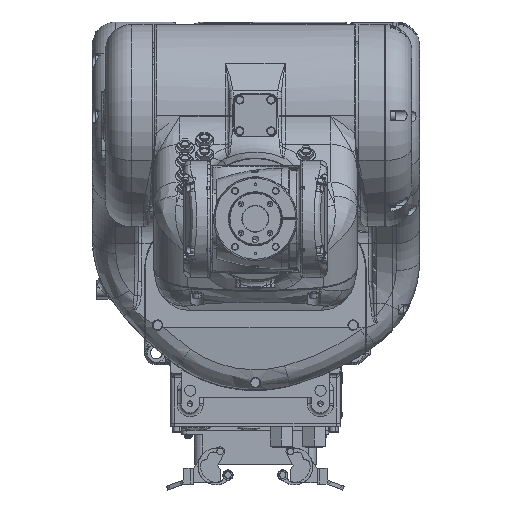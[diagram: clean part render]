
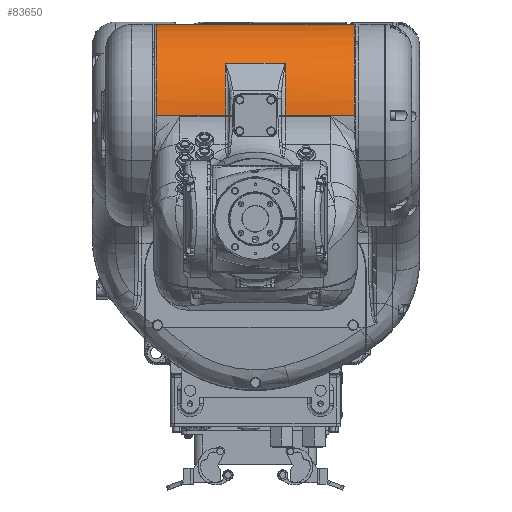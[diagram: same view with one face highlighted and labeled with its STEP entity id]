
A CAD part, top view. The second image highlights one B-rep face of the part: STEP entity #83650.
In plain terms, the highlighted cylindrical face has radius 70 mm (diameter 140 mm), a partial arc.
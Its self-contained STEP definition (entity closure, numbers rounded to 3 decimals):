
#79563=CARTESIAN_POINT('Vertex',(-76.,0.,70.)) ;
#79566=CARTESIAN_POINT('Axis2P3D Location',(-76.,0.,0.)) ;
#79570=CARTESIAN_POINT('Vertex',(-76.,57.341,-40.15)) ;
#81265=CARTESIAN_POINT('Line Origine',(0.,57.341,-40.15)) ;
#81269=CARTESIAN_POINT('Vertex',(76.,57.341,-40.15)) ;
#81496=CARTESIAN_POINT('Vertex',(76.,69.984,1.5)) ;
#81499=CARTESIAN_POINT('Axis2P3D Location',(76.,0.,0.)) ;
#81503=CARTESIAN_POINT('Vertex',(76.,0.,70.)) ;
#81589=CARTESIAN_POINT('Axis2P3D Location',(76.,0.,0.)) ;
#81593=CARTESIAN_POINT('Vertex',(76.,69.984,-1.5)) ;
#83566=CARTESIAN_POINT('Line Origine',(0.,0.,70.)) ;
#83570=CARTESIAN_POINT('Vertex',(-23.,0.,70.)) ;
#83586=CARTESIAN_POINT('Axis2P3D Location',(0.,0.,0.)) ;
#83591=CARTESIAN_POINT('Axis2P3D Location',(-23.,0.,0.)) ;
#83595=CARTESIAN_POINT('Vertex',(-23.,40.15,57.341)) ;
#83598=CARTESIAN_POINT('Line Origine',(0.,40.15,57.341)) ;
#83602=CARTESIAN_POINT('Vertex',(23.,40.15,57.341)) ;
#83605=CARTESIAN_POINT('Axis2P3D Location',(23.,0.,0.)) ;
#83609=CARTESIAN_POINT('Vertex',(23.,0.,70.)) ;
#83612=CARTESIAN_POINT('Line Origine',(0.,0.,70.)) ;
#83617=CARTESIAN_POINT('Line Origine',(0.,69.984,1.5)) ;
#83621=CARTESIAN_POINT('Vertex',(72.,69.984,1.5)) ;
#83624=CARTESIAN_POINT('Axis2P3D Location',(72.,0.,0.)) ;
#83628=CARTESIAN_POINT('Vertex',(72.,69.984,-1.5)) ;
#83631=CARTESIAN_POINT('Line Origine',(0.,69.984,-1.5)) ;
#79567=DIRECTION('Axis2P3D Direction',(1.,0.,0.)) ;
#81266=DIRECTION('Vector Direction',(1.,0.,0.)) ;
#81500=DIRECTION('Axis2P3D Direction',(1.,0.,0.)) ;
#81590=DIRECTION('Axis2P3D Direction',(1.,0.,0.)) ;
#83567=DIRECTION('Vector Direction',(1.,0.,0.)) ;
#83587=DIRECTION('Axis2P3D Direction',(1.,0.,0.)) ;
#83588=DIRECTION('Axis2P3D XDirection',(0.,0.,-1.)) ;
#83592=DIRECTION('Axis2P3D Direction',(1.,0.,0.)) ;
#83599=DIRECTION('Vector Direction',(1.,0.,0.)) ;
#83606=DIRECTION('Axis2P3D Direction',(1.,0.,0.)) ;
#83613=DIRECTION('Vector Direction',(1.,0.,0.)) ;
#83618=DIRECTION('Vector Direction',(1.,0.,0.)) ;
#83625=DIRECTION('Axis2P3D Direction',(1.,0.,0.)) ;
#83632=DIRECTION('Vector Direction',(1.,0.,0.)) ;
#79568=AXIS2_PLACEMENT_3D('Circle Axis2P3D',#79566,#79567,$) ;
#81501=AXIS2_PLACEMENT_3D('Circle Axis2P3D',#81499,#81500,$) ;
#81591=AXIS2_PLACEMENT_3D('Circle Axis2P3D',#81589,#81590,$) ;
#83589=AXIS2_PLACEMENT_3D('Cylinder Axis2P3D',#83586,#83587,#83588) ;
#83593=AXIS2_PLACEMENT_3D('Circle Axis2P3D',#83591,#83592,$) ;
#83607=AXIS2_PLACEMENT_3D('Circle Axis2P3D',#83605,#83606,$) ;
#83626=AXIS2_PLACEMENT_3D('Circle Axis2P3D',#83624,#83625,$) ;
#83637=ORIENTED_EDGE('',*,*,#81595,.F.) ;
#83638=ORIENTED_EDGE('',*,*,#81271,.F.) ;
#83639=ORIENTED_EDGE('',*,*,#79572,.F.) ;
#83640=ORIENTED_EDGE('',*,*,#83572,.T.) ;
#83641=ORIENTED_EDGE('',*,*,#83597,.T.) ;
#83642=ORIENTED_EDGE('',*,*,#83604,.T.) ;
#83643=ORIENTED_EDGE('',*,*,#83611,.F.) ;
#83644=ORIENTED_EDGE('',*,*,#83616,.T.) ;
#83645=ORIENTED_EDGE('',*,*,#81505,.F.) ;
#83646=ORIENTED_EDGE('',*,*,#83623,.F.) ;
#83647=ORIENTED_EDGE('',*,*,#83630,.T.) ;
#83648=ORIENTED_EDGE('',*,*,#83635,.T.) ;
#81267=VECTOR('Line Direction',#81266,1.) ;
#83568=VECTOR('Line Direction',#83567,1.) ;
#83600=VECTOR('Line Direction',#83599,1.) ;
#83614=VECTOR('Line Direction',#83613,1.) ;
#83619=VECTOR('Line Direction',#83618,1.) ;
#83633=VECTOR('Line Direction',#83632,1.) ;
#83650=ADVANCED_FACE('J3',(#83649),#83590,.T.) ;
#79569=CIRCLE('generated circle',#79568,70.) ;
#81502=CIRCLE('generated circle',#81501,70.) ;
#81592=CIRCLE('generated circle',#81591,70.) ;
#83594=CIRCLE('generated circle',#83593,70.) ;
#83608=CIRCLE('generated circle',#83607,70.) ;
#83627=CIRCLE('generated circle',#83626,70.) ;
#83590=CYLINDRICAL_SURFACE('generated cylinder',#83589,70.) ;
#79572=EDGE_CURVE('',#79564,#79571,#79569,.F.) ;
#81271=EDGE_CURVE('',#79571,#81270,#81268,.T.) ;
#81505=EDGE_CURVE('',#81497,#81504,#81502,.T.) ;
#81595=EDGE_CURVE('',#81270,#81594,#81592,.T.) ;
#83572=EDGE_CURVE('',#79564,#83571,#83569,.T.) ;
#83597=EDGE_CURVE('',#83571,#83596,#83594,.F.) ;
#83604=EDGE_CURVE('',#83596,#83603,#83601,.T.) ;
#83611=EDGE_CURVE('',#83610,#83603,#83608,.F.) ;
#83616=EDGE_CURVE('',#83610,#81504,#83615,.T.) ;
#83623=EDGE_CURVE('',#83622,#81497,#83620,.T.) ;
#83630=EDGE_CURVE('',#83622,#83629,#83627,.F.) ;
#83635=EDGE_CURVE('',#83629,#81594,#83634,.T.) ;
#83636=EDGE_LOOP('',(#83637,#83638,#83639,#83640,#83641,#83642,#83643,#83644,#83645,#83646,#83647,#83648)) ;
#83649=FACE_OUTER_BOUND('',#83636,.T.) ;
#81268=LINE('Line',#81265,#81267) ;
#83569=LINE('Line',#83566,#83568) ;
#83601=LINE('Line',#83598,#83600) ;
#83615=LINE('Line',#83612,#83614) ;
#83620=LINE('Line',#83617,#83619) ;
#83634=LINE('Line',#83631,#83633) ;
#79564=VERTEX_POINT('',#79563) ;
#79571=VERTEX_POINT('',#79570) ;
#81270=VERTEX_POINT('',#81269) ;
#81497=VERTEX_POINT('',#81496) ;
#81504=VERTEX_POINT('',#81503) ;
#81594=VERTEX_POINT('',#81593) ;
#83571=VERTEX_POINT('',#83570) ;
#83596=VERTEX_POINT('',#83595) ;
#83603=VERTEX_POINT('',#83602) ;
#83610=VERTEX_POINT('',#83609) ;
#83622=VERTEX_POINT('',#83621) ;
#83629=VERTEX_POINT('',#83628) ;
